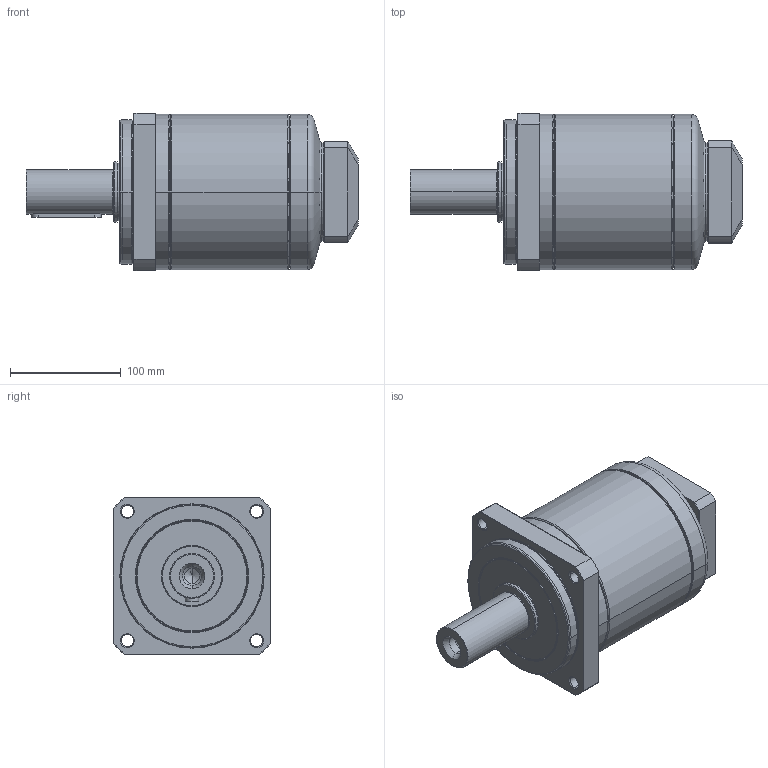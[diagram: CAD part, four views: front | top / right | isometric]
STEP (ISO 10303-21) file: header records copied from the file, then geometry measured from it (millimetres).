
FILE_DESCRIPTION((''),'2;1');
FILE_NAME('PA2-142_2ST_19-P0411400101_ASM','2016-05-11T',('d01943'),(''),'PRO/ENGINEER BY PARAMETRIC TECHNOLOGY CORPORATION, 2008410','PRO/ENGINEER BY PARAMETRIC TECHNOLOGY CORPORATION, 2008410','');
FILE_SCHEMA(('CONFIG_CONTROL_DESIGN'));
Length unit declared in the file: millimetre
Products named in the file (9): P1327510001; P0251500001; P1324500001; P0350500601; P0941500001; P0503400008; P0411400101; P1702500001; PA2-142_2ST_19-P0411400101_ASM
Assembly tree (8 placements, depth 2):
  PA2-142_2ST_19-P0411400101_ASM
    P1327510001
    P0251500001
    P1324500001
    P0350500601
    P0941500001
    P0503400008
    P0411400101
    P1702500001
Bounding box: 299.5 x 142 x 142 mm (x, y, z)
Volume: 2145473.4 mm3; surface area: 325519 mm2
Topology: 8 solids, 8 shells, 466 faces, 1018 edges, 586 vertices
Faces by surface type: cone 144, cylinder 133, torus 88, plane 85, bspline 16
Entity records: 17498 total; most frequent: CARTESIAN_POINT 7023, DIRECTION 2370, ORIENTED_EDGE 1996, AXIS2_PLACEMENT_3D 1010, EDGE_CURVE 998, VERTEX_POINT 586, CIRCLE 543, EDGE_LOOP 528
